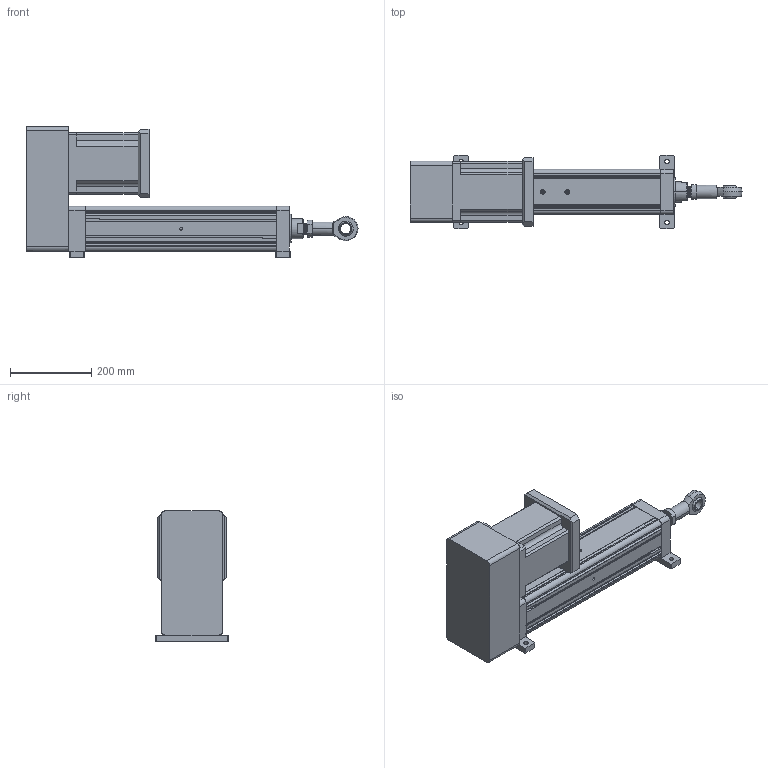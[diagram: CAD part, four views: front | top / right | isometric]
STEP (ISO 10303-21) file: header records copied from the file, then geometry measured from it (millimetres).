
FILE_DESCRIPTION (( 'STEP AP203' ), '1' );
FILE_NAME ('YRJ110-L300-H2K3.STEP', '2020-01-04T06:20:03', ( 'User' ), ( 'China' ), 'SwSTEP 2.0', 'SolidWorks 2016', '' );
FILE_SCHEMA (( 'CONFIG_CONTROL_DESIGN' ));
Length unit declared in the file: millimetre
Products named in the file (11): K3-110; YRJ110-L300-H2K3; H2-110-2; 095-100俴最倰第; K1-110; 萇儂碟-110; _BNC01-SI25T_K-R-001; 142熬厒儂; _BNC01-SI25T_K-R-002; H2-110-1; BNC01-SI25T_K-R
Assembly tree (10 placements, depth 4):
  YRJ110-L300-H2K3
    095-100俴最倰第
    萇儂碟-110
    142熬厒儂
    H2-110-1
    H2-110-2
    K3-110
      K1-110
      BNC01-SI25T_K-R
        _BNC01-SI25T_K-R-001
        _BNC01-SI25T_K-R-002
Bounding box: 815 x 180 x 320 mm (x, y, z)
Volume: 12037418.4 mm3; surface area: 950565.3 mm2
Topology: 8 solids, 8 shells, 410 faces, 1133 edges, 729 vertices
Faces by surface type: plane 196, cylinder 166, cone 34, bspline 14
Entity records: 23179 total; most frequent: CARTESIAN_POINT 11776, ORIENTED_EDGE 2210, DIRECTION 2050, EDGE_CURVE 1105, VERTEX_POINT 729, LINE 684, VECTOR 684, AXIS2_PLACEMENT_3D 683
